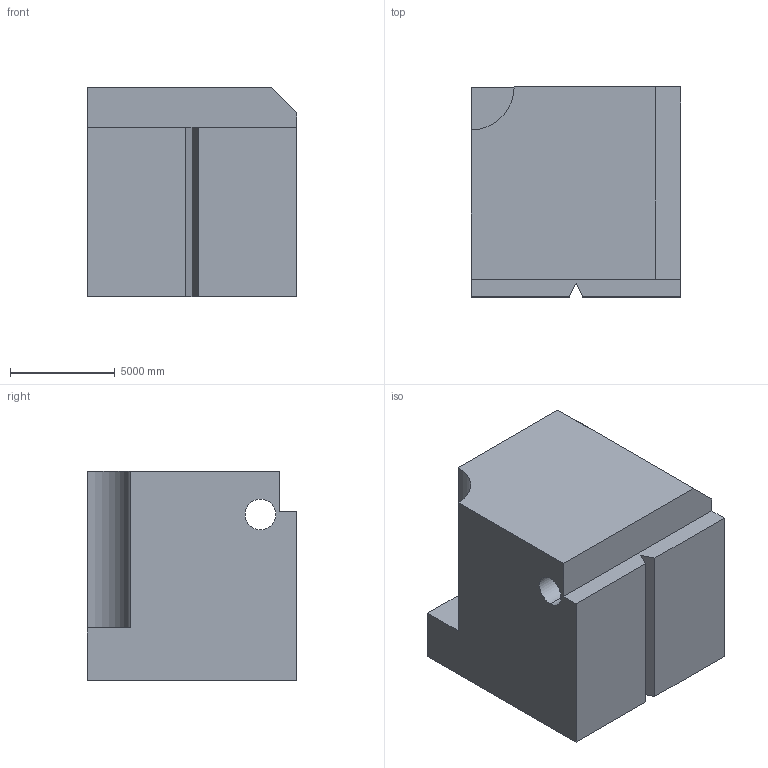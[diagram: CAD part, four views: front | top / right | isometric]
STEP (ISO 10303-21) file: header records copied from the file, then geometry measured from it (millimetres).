
FILE_DESCRIPTION (( 'STEP AP203' ), '1' );
FILE_NAME ('155.STEP', '2022-09-06T13:26:37', ( 'user' ), ( '' ), 'SwSTEP 2.0', 'SolidWorks 2021', '' );
FILE_SCHEMA (( 'CONFIG_CONTROL_DESIGN' ));
Length unit declared in the file: centimetre
Products named in the file (1): 155
Bounding box: 10000 x 10000 x 10000 mm (x, y, z)
Volume: 917271727546.7 mm3; surface area: 675252313.4 mm2
Topology: 1 solids, 1 shells, 21 faces, 54 edges, 36 vertices
Faces by surface type: plane 18, cylinder 3
Entity records: 715 total; most frequent: CARTESIAN_POINT 112, ORIENTED_EDGE 108, DIRECTION 104, EDGE_CURVE 54, LINE 48, VECTOR 48, VERTEX_POINT 36, AXIS2_PLACEMENT_3D 28
